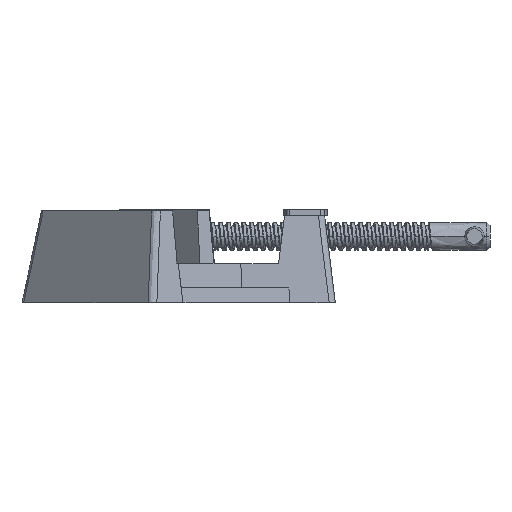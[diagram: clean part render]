
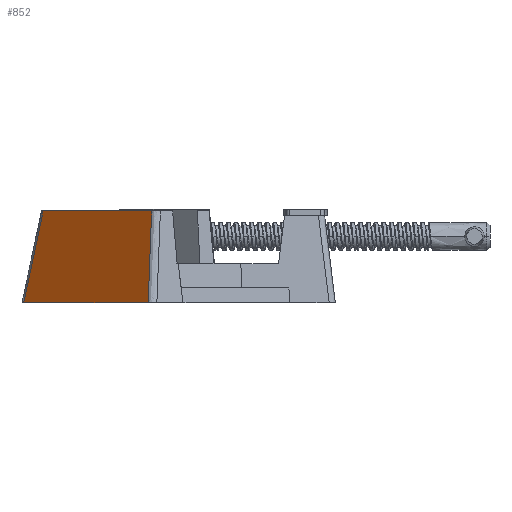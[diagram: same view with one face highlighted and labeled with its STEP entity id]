
A CAD part, left-side view. The second image highlights one B-rep face of the part: STEP entity #852.
In plain terms, the highlighted free-form (B-spline) face has degree [1, 1] with [2, 2] control points.
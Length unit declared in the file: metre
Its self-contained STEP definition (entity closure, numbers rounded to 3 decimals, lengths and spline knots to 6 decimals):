
#852 = ADVANCED_FACE( '', ( #1712 ), #1713, .T. );
#1712 = FACE_OUTER_BOUND( '', #6590, .T. );
#1713 = B_SPLINE_SURFACE_WITH_KNOTS( '', 1, 1, ( ( #6591, #6592 ), ( #6593, #6594 ) ), .UNSPECIFIED., .F., .F., .F., ( 2, 2 ), ( 2, 2 ), ( 0.058939, 0.937239 ), ( 0.029898, 0.971698 ), .UNSPECIFIED. );
#6590 = EDGE_LOOP( '', ( #8426, #8427, #8428, #8429 ) );
#6591 = CARTESIAN_POINT( '', ( -0.06007, 0.125889, 0. ) );
#6592 = CARTESIAN_POINT( '', ( -0.052714, 0.118533, 0.059 ) );
#6593 = CARTESIAN_POINT( '', ( -0.140035, 0.045923, 0. ) );
#6594 = CARTESIAN_POINT( '', ( -0.132679, 0.038567, 0.059 ) );
#8426 = ORIENTED_EDGE( '', *, *, #9620, .T. );
#8427 = ORIENTED_EDGE( '', *, *, #9584, .T. );
#8428 = ORIENTED_EDGE( '', *, *, #8938, .T. );
#8429 = ORIENTED_EDGE( '', *, *, #9535, .T. );
#8938 = EDGE_CURVE( '', #10427, #10425, #10428, .T. );
#9535 = EDGE_CURVE( '', #10425, #11364, #11366, .T. );
#9584 = EDGE_CURVE( '', #11429, #10427, #11435, .T. );
#9620 = EDGE_CURVE( '', #11364, #11429, #11486, .T. );
#10425 = VERTEX_POINT( '', #25233 );
#10427 = VERTEX_POINT( '', #25253 );
#10428 = B_SPLINE_CURVE_WITH_KNOTS( '', 3, ( #25254, #25255, #25256, #25257 ), .UNSPECIFIED., .F., .F., ( 4, 4 ), ( 0., 1. ), .UNSPECIFIED. );
#11364 = VERTEX_POINT( '', #53165 );
#11366 = B_SPLINE_CURVE_WITH_KNOTS( '', 1, ( #53185, #53186 ), .UNSPECIFIED., .F., .F., ( 2, 2 ), ( 0.037044, 0.962956 ), .UNSPECIFIED. );
#11429 = VERTEX_POINT( '', #55813 );
#11435 = B_SPLINE_CURVE_WITH_KNOTS( '', 1, ( #55840, #55841 ), .UNSPECIFIED., .F., .F., ( 2, 2 ), ( 0.032607, 0.967393 ), .UNSPECIFIED. );
#11486 = B_SPLINE_CURVE_WITH_KNOTS( '', 3, ( #57223, #57224, #57225, #57226 ), .UNSPECIFIED., .F., .F., ( 4, 4 ), ( 0., 1. ), .UNSPECIFIED. );
#25233 = CARTESIAN_POINT( '', ( -0.127557, 0.04369, 0.059 ) );
#25253 = CARTESIAN_POINT( '', ( -0.140035, 0.045923, 0. ) );
#25254 = CARTESIAN_POINT( '', ( -0.140035, 0.045923, 0. ) );
#25255 = CARTESIAN_POINT( '', ( -0.135876, 0.045179, 0.019667 ) );
#25256 = CARTESIAN_POINT( '', ( -0.131716, 0.044434, 0.039333 ) );
#25257 = CARTESIAN_POINT( '', ( -0.127557, 0.04369, 0.059 ) );
#53165 = CARTESIAN_POINT( '', ( -0.057836, 0.11341, 0.059 ) );
#53185 = CARTESIAN_POINT( '', ( -0.127557, 0.04369, 0.059 ) );
#53186 = CARTESIAN_POINT( '', ( -0.057836, 0.11341, 0.059 ) );
#55813 = CARTESIAN_POINT( '', ( -0.06007, 0.125889, 0. ) );
#55840 = CARTESIAN_POINT( '', ( -0.06007, 0.125889, 0. ) );
#55841 = CARTESIAN_POINT( '', ( -0.140035, 0.045923, 0. ) );
#57223 = CARTESIAN_POINT( '', ( -0.057836, 0.11341, 0.059 ) );
#57224 = CARTESIAN_POINT( '', ( -0.058581, 0.11757, 0.039333 ) );
#57225 = CARTESIAN_POINT( '', ( -0.059325, 0.121729, 0.019667 ) );
#57226 = CARTESIAN_POINT( '', ( -0.06007, 0.125889, 0. ) );
